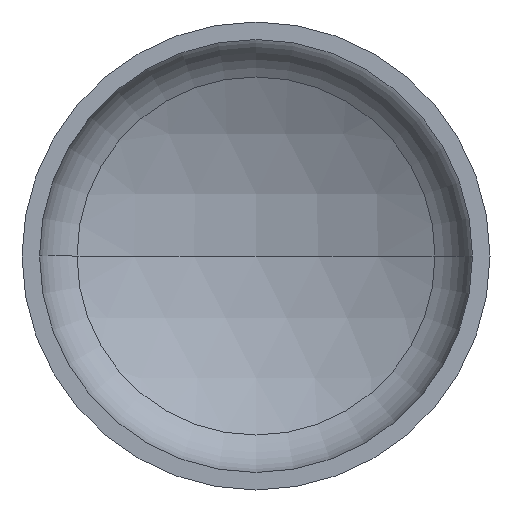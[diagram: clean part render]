
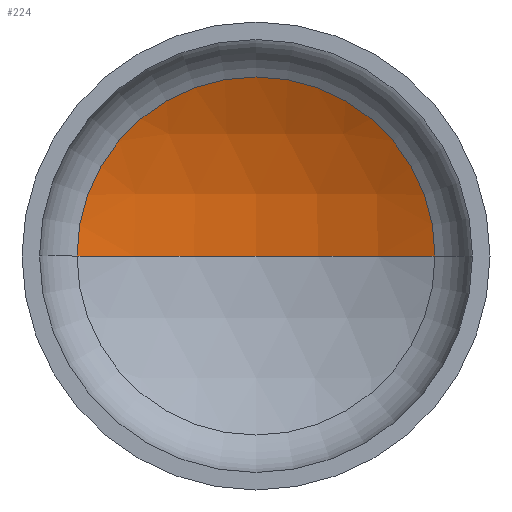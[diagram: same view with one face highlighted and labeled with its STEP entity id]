
A CAD part, front view. The second image highlights one B-rep face of the part: STEP entity #224.
In plain terms, the highlighted spherical face has radius 406 mm.
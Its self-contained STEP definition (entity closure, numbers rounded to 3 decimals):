
#1 = DIRECTION ( 'NONE',  ( 0., -1., 0. ) ) ;
#2 = DIRECTION ( 'NONE',  ( 0., 0., -1. ) ) ;
#5 = CARTESIAN_POINT ( 'NONE',  ( 0., -227.984, 0. ) ) ;
#10 = DIRECTION ( 'NONE',  ( 0., 0., -1. ) ) ;
#12 = AXIS2_PLACEMENT_3D ( 'NONE', #240, #10, #48 ) ;
#24 = AXIS2_PLACEMENT_3D ( 'NONE', #165, #200, #395 ) ;
#26 = AXIS2_PLACEMENT_3D ( 'NONE', #5, #2, #101 ) ;
#28 = AXIS2_PLACEMENT_3D ( 'NONE', #108, #1, #94 ) ;
#44 = CARTESIAN_POINT ( 'NONE',  ( -194.335, 128.484, 0. ) ) ;
#48 = DIRECTION ( 'NONE',  ( -1., 0., 0. ) ) ;
#54 = CIRCLE ( 'NONE', #24, 406. ) ;
#73 = VERTEX_POINT ( 'NONE', #300 ) ;
#86 = EDGE_CURVE ( 'NONE', #73, #253, #296, .T. ) ;
#88 = EDGE_CURVE ( 'NONE', #359, #73, #223, .T. ) ;
#90 = EDGE_CURVE ( 'NONE', #359, #253, #54, .T. ) ;
#94 = DIRECTION ( 'NONE',  ( 1., 0., 0. ) ) ;
#101 = DIRECTION ( 'NONE',  ( -1., 0., 0. ) ) ;
#108 = CARTESIAN_POINT ( 'NONE',  ( 0., 128.484, 0. ) ) ;
#115 = EDGE_LOOP ( 'NONE', ( #294, #364, #310 ) ) ;
#165 = CARTESIAN_POINT ( 'NONE',  ( 0., -227.984, 0. ) ) ;
#200 = DIRECTION ( 'NONE',  ( 0., 0., 1. ) ) ;
#211 = FACE_OUTER_BOUND ( 'NONE', #115, .T. ) ;
#223 = CIRCLE ( 'NONE', #26, 406. ) ;
#224 = ADVANCED_FACE ( 'NONE', ( #211 ), #281, .F. ) ;
#240 = CARTESIAN_POINT ( 'NONE',  ( 0., -227.984, 0. ) ) ;
#253 = VERTEX_POINT ( 'NONE', #44 ) ;
#260 = CARTESIAN_POINT ( 'NONE',  ( 0., 178.016, 0. ) ) ;
#281 = SPHERICAL_SURFACE ( 'NONE', #12, 406. ) ;
#294 = ORIENTED_EDGE ( 'NONE', *, *, #90, .F. ) ;
#296 = CIRCLE ( 'NONE', #28, 194.335 ) ;
#300 = CARTESIAN_POINT ( 'NONE',  ( 194.335, 128.484, 0. ) ) ;
#310 = ORIENTED_EDGE ( 'NONE', *, *, #86, .T. ) ;
#359 = VERTEX_POINT ( 'NONE', #260 ) ;
#364 = ORIENTED_EDGE ( 'NONE', *, *, #88, .T. ) ;
#395 = DIRECTION ( 'NONE',  ( 1., 0., 0. ) ) ;
